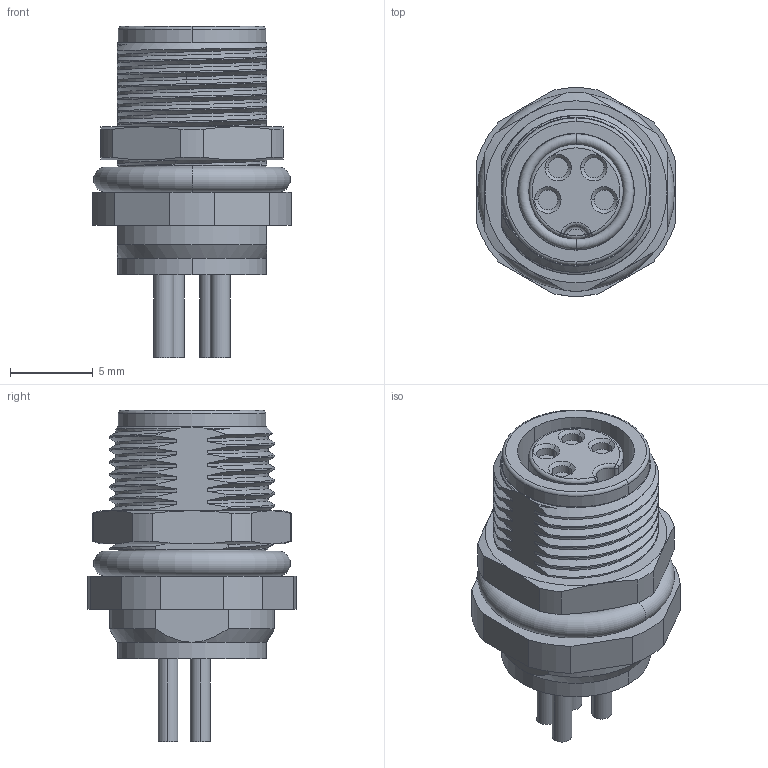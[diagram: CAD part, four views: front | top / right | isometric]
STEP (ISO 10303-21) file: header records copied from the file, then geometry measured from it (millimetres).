
FILE_DESCRIPTION((''),'2;1');
FILE_NAME('C-T4071017041-001','2017-02-01T',('workeradm'),('Tyco Electronics Ltd.'),'CREO PARAMETRIC BY PTC INC, 2016050','CREO PARAMETRIC BY PTC INC, 2016050','');
FILE_SCHEMA(('AUTOMOTIVE_DESIGN { 1 0 10303 214 1 1 1 1 }'));
Length unit declared in the file: millimetre
Products named in the file (1): C-T4071017041-001
Bounding box: 12 x 12.57 x 20 mm (x, y, z)
Volume: 1199.8 mm3; surface area: 1249.4 mm2
Topology: 1 solids, 1 shells, 194 faces, 485 edges, 309 vertices
Faces by surface type: bspline 62, cylinder 58, plane 37, cone 25, torus 10, sphere 2
Entity records: 23370 total; most frequent: CARTESIAN_POINT 19009, ORIENTED_EDGE 970, DIRECTION 699, EDGE_CURVE 485, VERTEX_POINT 309, AXIS2_PLACEMENT_3D 274, EDGE_LOOP 210, FACE_OUTER_BOUND 194
